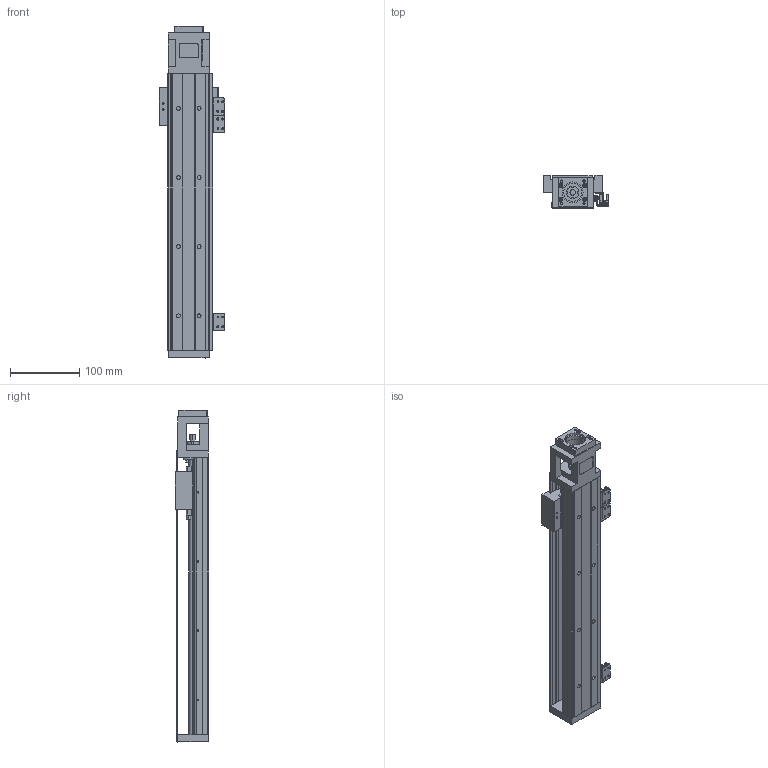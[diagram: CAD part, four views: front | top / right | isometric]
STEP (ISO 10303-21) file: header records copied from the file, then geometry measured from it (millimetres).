
FILE_DESCRIPTION (( 'STEP AP203' ), '1' );
FILE_NAME ('KH60D10C-400A1-F1CS2.STEP', '2023-12-27T06:17:51', ( '' ), ( '' ), 'SwSTEP 2.0', 'SolidWorks 2016', '' );
FILE_SCHEMA (( 'CONFIG_CONTROL_DESIGN' ));
Length unit declared in the file: millimetre
Products named in the file (52): 綴釱; KH60-500; 囀鞠褒麥芛蹟隊M3x5; KH86-08-SX674; KK60-03-F1; KK60-04-07; KK60-08-01; 鞠褒蹟譫M3; 囀鞠褒す埴芛蹟隊M3℅5; KH86-08-(SX674); 囀鞠褒す埴芛蹟隊M3℅4; 000; PM-Y65; 錨璃2; 蛌諉啣; KH60D10C-400A1-F1CS2; B-KK60-A1-F0C
Assembly tree (31 placements, depth 3):
  綴釱
  囀鞠褒麥芛蹟隊M3x5
  KK60-03-F1
  KK60-08-01
  鞠褒蹟譫M3
Bounding box: 95.4 x 48 x 480 mm (x, y, z)
Volume: 623073.5 mm3; surface area: 235832.9 mm2
Topology: 25 solids, 61 shells, 2462 faces, 6403 edges, 4090 vertices
Faces by surface type: plane 1221, cylinder 475, bspline 396, cone 370
Entity records: 63908 total; most frequent: CARTESIAN_POINT 19044, ORIENTED_EDGE 8954, DIRECTION 7104, EDGE_CURVE 4482, VERTEX_POINT 2951, LINE 2876, VECTOR 2876, AXIS2_PLACEMENT_3D 2114
